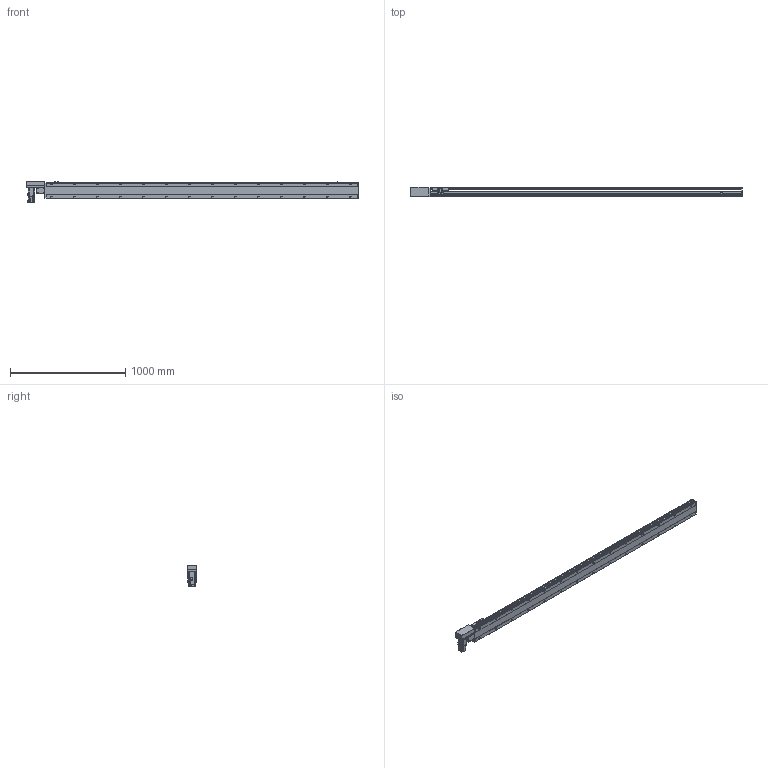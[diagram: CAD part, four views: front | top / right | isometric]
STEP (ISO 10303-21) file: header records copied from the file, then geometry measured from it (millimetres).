
FILE_DESCRIPTION(/* description */ ('STEP AP214'),/* implementation_level */ '2;1');
FILE_NAME(/* name */ 'PBS140-P40-S2450-R-T40-C1-N(0)',/* time_stamp */ '2022-06-06T03:31:18+02:00',/* author */ ('License CC BY-ND 4.0'),/* organization */ ('CADENAS'),/* preprocessor_version */ 'ST-DEVELOPER v18.102',/* originating_system */ 'PARTsolutions',/* authorisation */ ' ');
FILE_SCHEMA (('AP242_MANAGED_MODEL_BASED_3D_ENGINEERING_MIM_LF { 1 0 10303 442 1 1 4 }','AUTOMOTIVE_DESIGN {1 0 10303 214 3 1 1}'));
Length unit declared in the file: millimetre
Products named in the file (7): PBS140-P40-S2450-R-T40-C1-N(0); PBS140_sensor; PBS140_plant; PBS140_sliser; T40-p1; PBS140T-R_motors; PBS140-S2450()_body
Assembly tree (8 placements, depth 2):
  PBS140-P40-S2450-R-T40-C1-N(0)
    PBS140_sensor  x3
    PBS140_plant
    PBS140_sliser
    T40-p1
    PBS140T-R_motors
    PBS140-S2450()_body
Bounding box: 2883 x 80.5 x 189.7 mm (x, y, z)
Volume: 12592323.1 mm3; surface area: 2144782.7 mm2
Topology: 8 solids, 8 shells, 1171 faces, 3076 edges, 2009 vertices
Faces by surface type: plane 728, cylinder 379, cone 54, sphere 8, torus 2
Full cylindrical faces by diameter (mm): 3.242 x4, 4 x2, 4.134 x4, 4.4 x8, 4.5 x2, 4.8 x4, 4.917 x36, 5.5 x7, 6 x2, 7 x30, 7.5 x8, 8 x12, 8.5 x4, 10.5 x28, 14 x1, 30 x2, 50 x2
Entity records: 33393 total; most frequent: CARTESIAN_POINT 6337, DIRECTION 5617, ORIENTED_EDGE 5272, EDGE_CURVE 2636, AXIS2_PLACEMENT_3D 1987, VERTEX_POINT 1845, LINE 1643, VECTOR 1643
